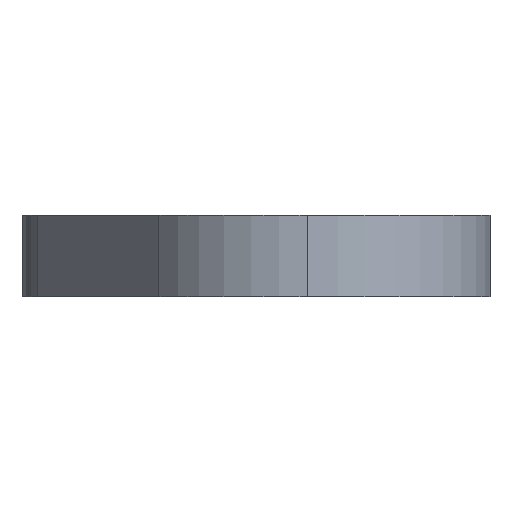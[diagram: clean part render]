
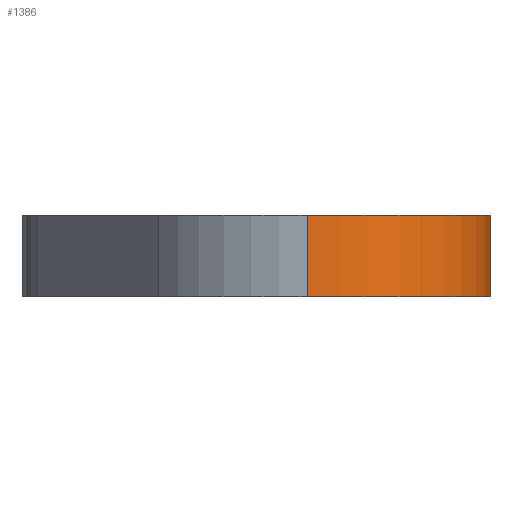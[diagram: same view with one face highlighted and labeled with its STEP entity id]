
A CAD part, left-side view. The second image highlights one B-rep face of the part: STEP entity #1386.
In plain terms, the highlighted cylindrical face has radius 22.5 mm (diameter 45 mm), a partial arc.
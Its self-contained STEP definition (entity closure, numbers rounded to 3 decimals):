
#51 = LINE ( 'NONE', #1639, #1393 ) ;
#176 = VERTEX_POINT ( 'NONE', #1741 ) ;
#531 = DIRECTION ( 'NONE',  ( 0., 0., 1. ) ) ;
#575 = CYLINDRICAL_SURFACE ( 'NONE', #1052, 22.5 ) ;
#614 = ORIENTED_EDGE ( 'NONE', *, *, #1580, .T. ) ;
#625 = CIRCLE ( 'NONE', #2349, 22.5 ) ;
#726 = EDGE_CURVE ( 'NONE', #176, #2595, #625, .T. ) ;
#764 = ORIENTED_EDGE ( 'NONE', *, *, #1141, .T. ) ;
#767 = AXIS2_PLACEMENT_3D ( 'NONE', #2648, #531, #1851 ) ;
#787 = DIRECTION ( 'NONE',  ( -1., 0., 0. ) ) ;
#789 = DIRECTION ( 'NONE',  ( 1., 0., 0. ) ) ;
#798 = DIRECTION ( 'NONE',  ( 0., 0., 1. ) ) ;
#801 = CARTESIAN_POINT ( 'NONE',  ( 0., 0., 10. ) ) ;
#956 = CARTESIAN_POINT ( 'NONE',  ( -22.5, 0., 10. ) ) ;
#965 = ORIENTED_EDGE ( 'NONE', *, *, #1763, .T. ) ;
#980 = ORIENTED_EDGE ( 'NONE', *, *, #726, .F. ) ;
#1052 = AXIS2_PLACEMENT_3D ( 'NONE', #2113, #1261, #787 ) ;
#1089 = CARTESIAN_POINT ( 'NONE',  ( -22.5, 0., 0. ) ) ;
#1141 = EDGE_CURVE ( 'NONE', #2622, #3222, #2298, .T. ) ;
#1261 = DIRECTION ( 'NONE',  ( 0., 0., -1. ) ) ;
#1386 = ADVANCED_FACE ( 'NONE', ( #2681 ), #575, .T. ) ;
#1393 = VECTOR ( 'NONE', #3193, 1000. ) ;
#1422 = DIRECTION ( 'NONE',  ( 0., 0., -1. ) ) ;
#1580 = EDGE_CURVE ( 'NONE', #3222, #2595, #51, .T. ) ;
#1639 = CARTESIAN_POINT ( 'NONE',  ( 19.96, -10.385, 10. ) ) ;
#1711 = CARTESIAN_POINT ( 'NONE',  ( 19.96, -10.385, 10. ) ) ;
#1741 = CARTESIAN_POINT ( 'NONE',  ( -22.5, 0., 10. ) ) ;
#1763 = EDGE_CURVE ( 'NONE', #176, #2622, #2678, .T. ) ;
#1851 = DIRECTION ( 'NONE',  ( 1., 0., 0. ) ) ;
#2113 = CARTESIAN_POINT ( 'NONE',  ( 0., 0., 10. ) ) ;
#2298 = CIRCLE ( 'NONE', #767, 22.5 ) ;
#2349 = AXIS2_PLACEMENT_3D ( 'NONE', #801, #798, #789 ) ;
#2472 = EDGE_LOOP ( 'NONE', ( #980, #965, #764, #614 ) ) ;
#2595 = VERTEX_POINT ( 'NONE', #1711 ) ;
#2622 = VERTEX_POINT ( 'NONE', #1089 ) ;
#2648 = CARTESIAN_POINT ( 'NONE',  ( 0., 0., 0. ) ) ;
#2678 = LINE ( 'NONE', #956, #3317 ) ;
#2681 = FACE_OUTER_BOUND ( 'NONE', #2472, .T. ) ;
#2706 = CARTESIAN_POINT ( 'NONE',  ( 19.96, -10.385, 0. ) ) ;
#3193 = DIRECTION ( 'NONE',  ( 0., 0., 1. ) ) ;
#3222 = VERTEX_POINT ( 'NONE', #2706 ) ;
#3317 = VECTOR ( 'NONE', #1422, 1000. ) ;
